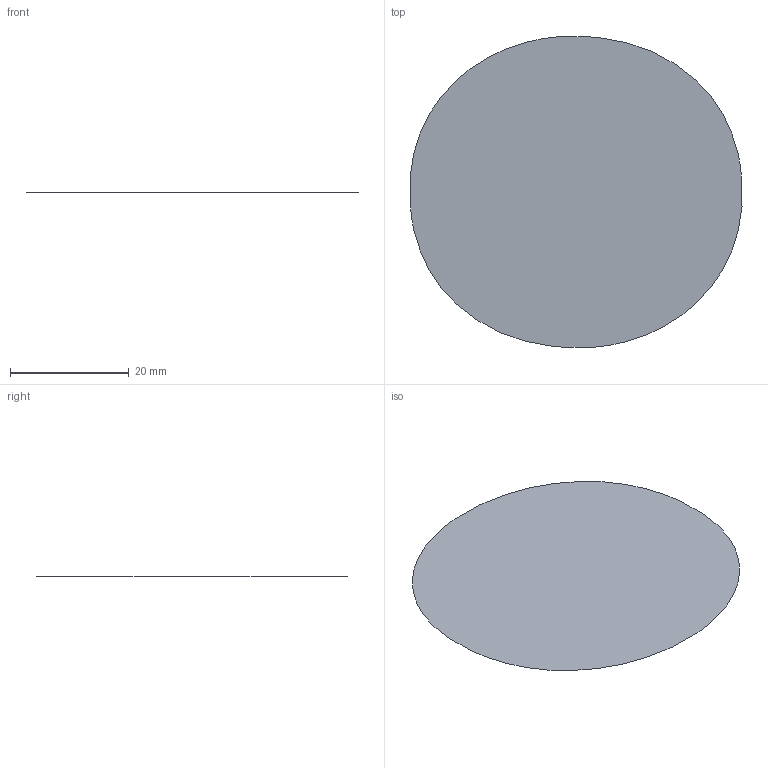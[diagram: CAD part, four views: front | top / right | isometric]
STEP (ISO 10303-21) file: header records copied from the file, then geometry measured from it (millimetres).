
FILE_DESCRIPTION(('Open CASCADE Model'),'2;1');
FILE_NAME('Open CASCADE Shape Model','2026-10-15T19:57:36',('Author'),( 'Open CASCADE'),'Open CASCADE STEP processor 7.9','Open CASCADE 7.9' ,'Unknown');
FILE_SCHEMA(('AUTOMOTIVE_DESIGN { 1 0 10303 214 1 1 1 1 }'));
Length unit declared in the file: millimetre
Products named in the file (1): Open CASCADE STEP translator 7.9 8
Bounding box: 55.94 x 52.4 x 0 mm (x, y, z)
Surface area: 2353.6 mm2 (no closed solid volume)
Topology: 0 solids, 1 shells, 1 faces, 4 edges, 4 vertices
Faces by surface type: plane 1
Entity records: 94 total; most frequent: CARTESIAN_POINT 38, B_SPLINE_CURVE_WITH_KNOTS 8, DIRECTION 4, ORIENTED_EDGE 4, EDGE_CURVE 4, VERTEX_POINT 4, SURFACE_CURVE 4, PCURVE 4
